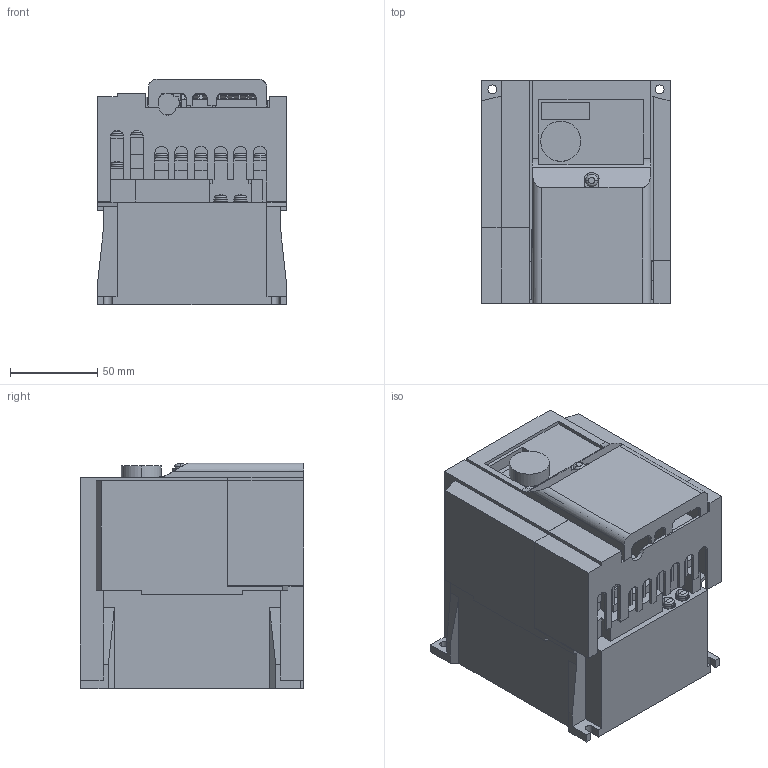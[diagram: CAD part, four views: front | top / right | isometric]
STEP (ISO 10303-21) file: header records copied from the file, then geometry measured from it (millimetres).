
FILE_DESCRIPTION((''),'2;1');
FILE_NAME('3D-INV-25_08_ASM','2010-09-06T',('HW41538'),(''),'PRO/ENGINEER BY PARAMETRIC TECHNOLOGY CORPORATION, 2006420','PRO/ENGINEER BY PARAMETRIC TECHNOLOGY CORPORATION, 2006420','');
FILE_SCHEMA(('CONFIG_CONTROL_DESIGN'));
Length unit declared in the file: millimetre
Products named in the file (9): 3D-BASE-26_07; 3D-POWER-25_08_ASM; 3D-SW-PW-P-NA-M4X8_; 3D-TE_NEJI-M4X8-ZA7; 3D-TE_SHORT-21_06; 3D-TE_NEJI-21_06_ASM; 3D-SEN_COV-25_08; 3D-COV-D7; 3D-INV-25_08_ASM
Assembly tree (18 placements, depth 3):
  3D-INV-25_08_ASM
    3D-POWER-25_08_ASM
      3D-BASE-26_07
    3D-SW-PW-P-NA-M4X8_  x2
    3D-TE_NEJI-21_06_ASM
      3D-TE_NEJI-M4X8-ZA7  x10
      3D-TE_SHORT-21_06
    3D-SEN_COV-25_08
    3D-COV-D7
Bounding box: 108 x 128 x 129.5 mm (x, y, z)
Volume: 1449481.6 mm3; surface area: 150195.5 mm2
Topology: 16 solids, 17 shells, 880 faces, 2267 edges, 1456 vertices
Faces by surface type: plane 702, cylinder 104, torus 26, cone 24, sphere 24
Entity records: 22080 total; most frequent: CARTESIAN_POINT 3971, ORIENTED_EDGE 3778, DIRECTION 3547, EDGE_CURVE 1889, VECTOR 1699, LINE 1699, VERTEX_POINT 1248, AXIS2_PLACEMENT_3D 924
